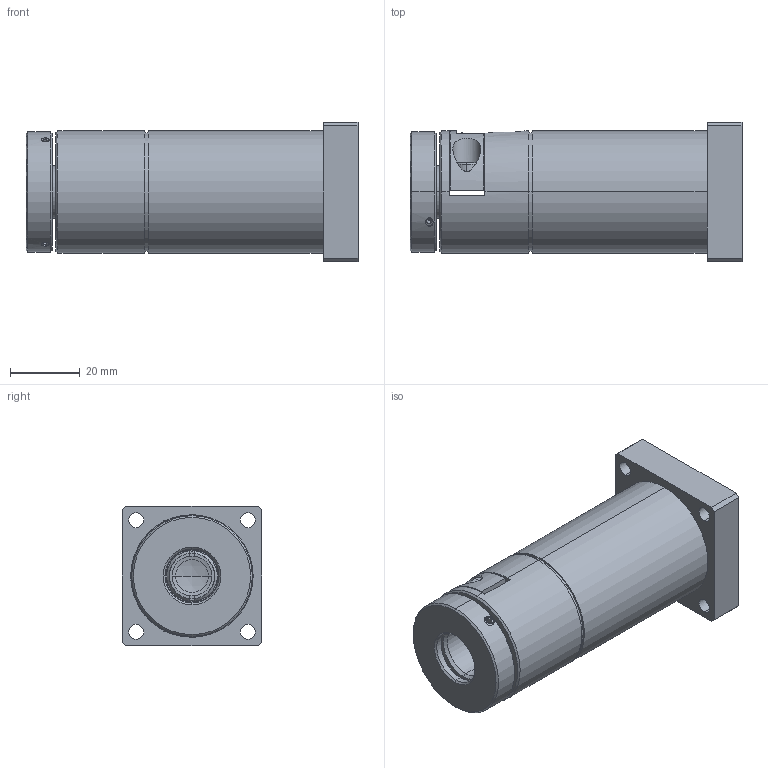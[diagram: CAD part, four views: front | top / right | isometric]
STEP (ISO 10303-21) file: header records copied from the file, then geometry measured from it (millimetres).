
FILE_DESCRIPTION (( 'STEP AP214' ), '1' );
FILE_NAME ('PT-P00577.STEP', '2018-09-19T08:56:29', ( '' ), ( '' ), 'SwSTEP 2.0', 'SolidWorks 2014', '' );
FILE_SCHEMA (( 'AUTOMOTIVE_DESIGN' ));
Length unit declared in the file: millimetre
Products named in the file (1): PT-P00577
Bounding box: 95 x 39.9 x 39.9 mm (x, y, z)
Surface area: 21650.6 mm2 (no closed solid volume)
Topology: 0 solids, 15 shells, 208 faces, 639 edges, 436 vertices
Faces by surface type: plane 91, cylinder 74, cone 30, torus 8, bspline 3, sphere 2
Entity records: 9910 total; most frequent: CARTESIAN_POINT 1968, DIRECTION 1202, ORIENTED_EDGE 1066, EDGE_CURVE 633, AXIS2_PLACEMENT_3D 459, VERTEX_POINT 436, LINE 284, VECTOR 284
